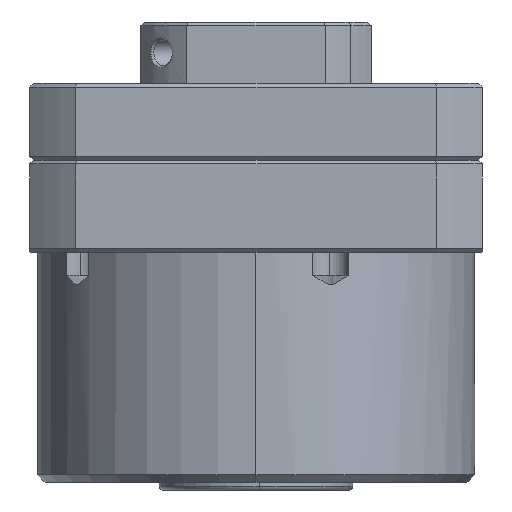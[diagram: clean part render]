
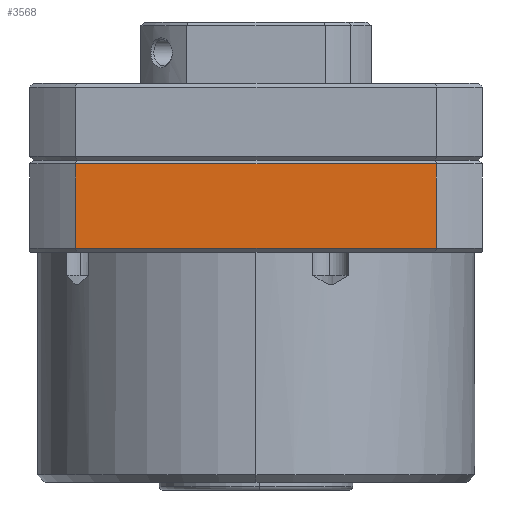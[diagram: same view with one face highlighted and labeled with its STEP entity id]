
A CAD part, left-side view. The second image highlights one B-rep face of the part: STEP entity #3568.
In plain terms, the highlighted planar face has unit normal (-1, 0, 0).
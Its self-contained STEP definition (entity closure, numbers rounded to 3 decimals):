
#78 = CARTESIAN_POINT ( 'NONE',  ( -36., -29.5, -11.5 ) ) ;
#126 = AXIS2_PLACEMENT_3D ( 'NONE', #5417, #2318, #6614 ) ;
#741 = VERTEX_POINT ( 'NONE', #7848 ) ;
#1150 = DIRECTION ( 'NONE',  ( 0., 1., 0. ) ) ;
#1633 = DIRECTION ( 'NONE',  ( 0., 0., 1. ) ) ;
#1670 = PLANE ( 'NONE',  #126 ) ;
#1780 = VECTOR ( 'NONE', #1633, 1000. ) ;
#2049 = EDGE_LOOP ( 'NONE', ( #2232, #7116, #2433, #4117 ) ) ;
#2232 = ORIENTED_EDGE ( 'NONE', *, *, #4145, .F. ) ;
#2295 = EDGE_CURVE ( 'NONE', #2870, #3493, #3491, .T. ) ;
#2318 = DIRECTION ( 'NONE',  ( -1., 0., 0. ) ) ;
#2339 = VECTOR ( 'NONE', #2738, 1000. ) ;
#2433 = ORIENTED_EDGE ( 'NONE', *, *, #6711, .F. ) ;
#2738 = DIRECTION ( 'NONE',  ( 0., 0., -1. ) ) ;
#2870 = VERTEX_POINT ( 'NONE', #7516 ) ;
#3011 = CARTESIAN_POINT ( 'NONE',  ( -36., -29.5, -0.5 ) ) ;
#3467 = LINE ( 'NONE', #5983, #1780 ) ;
#3491 = LINE ( 'NONE', #3011, #6529 ) ;
#3493 = VERTEX_POINT ( 'NONE', #3509 ) ;
#3509 = CARTESIAN_POINT ( 'NONE',  ( -36., 23.516, -0.5 ) ) ;
#3568 = ADVANCED_FACE ( 'NONE', ( #3867 ), #1670, .T. ) ;
#3860 = DIRECTION ( 'NONE',  ( 0., -1., 0. ) ) ;
#3867 = FACE_OUTER_BOUND ( 'NONE', #2049, .T. ) ;
#4117 = ORIENTED_EDGE ( 'NONE', *, *, #2295, .T. ) ;
#4145 = EDGE_CURVE ( 'NONE', #741, #3493, #3467, .T. ) ;
#5054 = EDGE_CURVE ( 'NONE', #741, #5186, #7447, .T. ) ;
#5186 = VERTEX_POINT ( 'NONE', #5829 ) ;
#5417 = CARTESIAN_POINT ( 'NONE',  ( -36., -29.5, -42. ) ) ;
#5825 = LINE ( 'NONE', #6400, #2339 ) ;
#5829 = CARTESIAN_POINT ( 'NONE',  ( -36., -23.516, -11.5 ) ) ;
#5983 = CARTESIAN_POINT ( 'NONE',  ( -36., 23.516, 29.63 ) ) ;
#6400 = CARTESIAN_POINT ( 'NONE',  ( -36., -23.516, 29.63 ) ) ;
#6529 = VECTOR ( 'NONE', #1150, 1000. ) ;
#6614 = DIRECTION ( 'NONE',  ( 0., 0., 1. ) ) ;
#6711 = EDGE_CURVE ( 'NONE', #2870, #5186, #5825, .T. ) ;
#7053 = VECTOR ( 'NONE', #3860, 1000. ) ;
#7116 = ORIENTED_EDGE ( 'NONE', *, *, #5054, .T. ) ;
#7447 = LINE ( 'NONE', #78, #7053 ) ;
#7516 = CARTESIAN_POINT ( 'NONE',  ( -36., -23.516, -0.5 ) ) ;
#7848 = CARTESIAN_POINT ( 'NONE',  ( -36., 23.516, -11.5 ) ) ;
